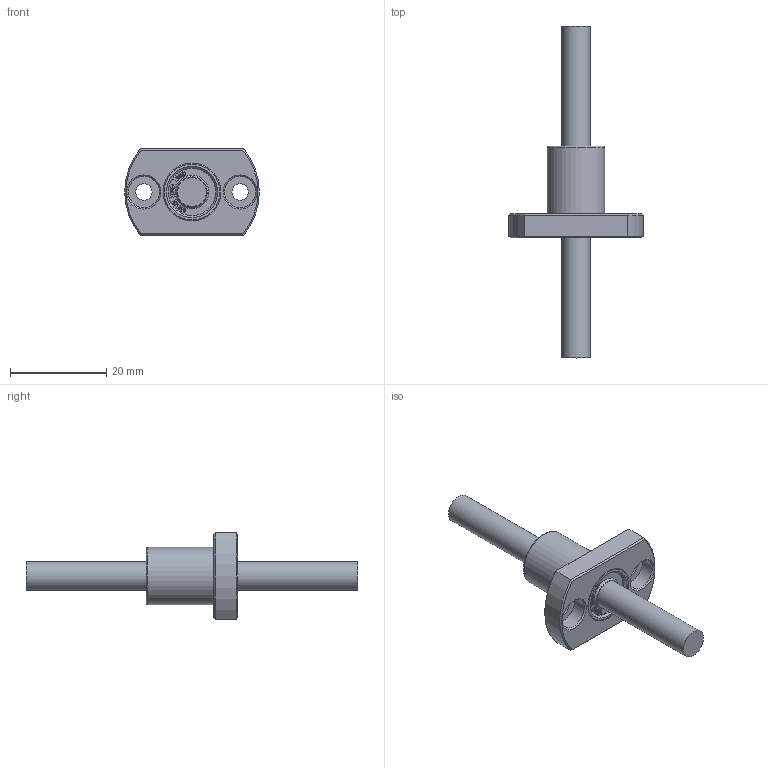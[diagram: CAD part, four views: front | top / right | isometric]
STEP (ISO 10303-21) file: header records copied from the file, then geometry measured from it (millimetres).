
FILE_DESCRIPTION(/* description */ (''),/* implementation_level */ '2;1');
FILE_NAME(/* name */ 'W:\(01) 2024년 홈페이지 CAD파일 최신화\LMH\IPT\LMH6UU.stp',/* time_stamp */ '2025-01-23T09:35:03+09:00',/* author */ ('서우현'),/* organization */ (''),/* preprocessor_version */ 'ST-DEVELOPER v17.2',/* originating_system */ 'Autodesk Inventor 2019',/* authorisation */ '');
FILE_SCHEMA (('AUTOMOTIVE_DESIGN { 1 0 10303 214 3 1 1 }'));
Length unit declared in the file: millimetre
Products named in the file (1): LM5
Bounding box: 28 x 69 x 18 mm (x, y, z)
Volume: 5008.2 mm3; surface area: 2975.8 mm2
Topology: 1 solids, 1 shells, 816 faces, 2294 edges, 1532 vertices
Faces by surface type: bspline 568, plane 222, cone 12, cylinder 12, torus 2
Full cylindrical faces by diameter (mm): 3.4 x2, 6 x2, 6.5 x2, 9.85 x2, 12 x2
Entity records: 27776 total; most frequent: CARTESIAN_POINT 9771, ORIENTED_EDGE 4588, EDGE_CURVE 2294, DIRECTION 1714, VERTEX_POINT 1532, B_SPLINE_CURVE_WITH_KNOTS 1136, LINE 1084, VECTOR 1084
